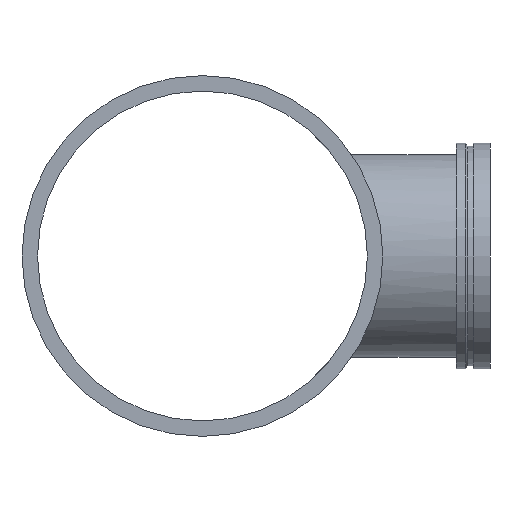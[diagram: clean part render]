
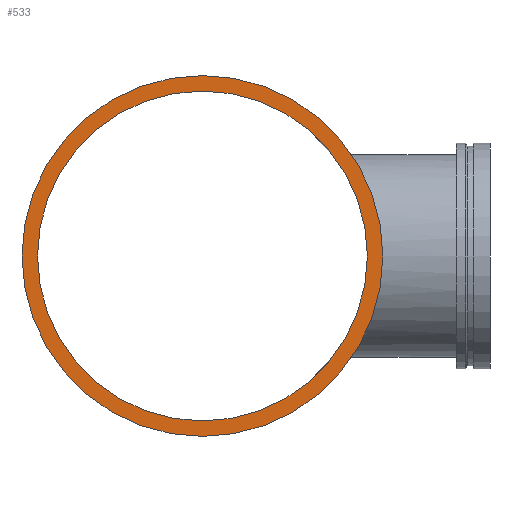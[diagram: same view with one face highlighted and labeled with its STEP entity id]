
A CAD part, left-side view. The second image highlights one B-rep face of the part: STEP entity #533.
In plain terms, the highlighted planar face has unit normal (-1, 0, 0).
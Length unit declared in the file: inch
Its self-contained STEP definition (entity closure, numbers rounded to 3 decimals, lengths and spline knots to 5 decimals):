
#58=FACE_BOUND('',#128,.T.);
#67=PLANE('',#626);
#92=FACE_OUTER_BOUND('',#127,.T.);
#127=EDGE_LOOP('',(#465,#466));
#128=EDGE_LOOP('',(#467,#468));
#151=CIRCLE('',#587,16.);
#152=CIRCLE('',#588,16.);
#175=CIRCLE('',#624,14.625);
#176=CIRCLE('',#625,14.625);
#239=VERTEX_POINT('',#1105);
#240=VERTEX_POINT('',#1107);
#263=VERTEX_POINT('',#1174);
#264=VERTEX_POINT('',#1176);
#299=EDGE_CURVE('',#239,#240,#151,.T.);
#300=EDGE_CURVE('',#240,#239,#152,.T.);
#331=EDGE_CURVE('',#264,#263,#175,.T.);
#332=EDGE_CURVE('',#263,#264,#176,.T.);
#465=ORIENTED_EDGE('',*,*,#300,.F.);
#466=ORIENTED_EDGE('',*,*,#299,.F.);
#467=ORIENTED_EDGE('',*,*,#331,.T.);
#468=ORIENTED_EDGE('',*,*,#332,.T.);
#533=ADVANCED_FACE('',(#92,#58),#67,.T.);
#587=AXIS2_PLACEMENT_3D('',#1108,#716,#717);
#588=AXIS2_PLACEMENT_3D('',#1109,#718,#719);
#624=AXIS2_PLACEMENT_3D('',#1177,#798,#799);
#625=AXIS2_PLACEMENT_3D('',#1178,#800,#801);
#626=AXIS2_PLACEMENT_3D('',#1179,#802,#803);
#716=DIRECTION('center_axis',(1.,0.,0.));
#717=DIRECTION('ref_axis',(0.,0.,1.));
#718=DIRECTION('center_axis',(1.,0.,0.));
#719=DIRECTION('ref_axis',(0.,0.,1.));
#798=DIRECTION('center_axis',(1.,0.,0.));
#799=DIRECTION('ref_axis',(0.,0.,1.));
#800=DIRECTION('center_axis',(1.,0.,0.));
#801=DIRECTION('ref_axis',(0.,0.,1.));
#802=DIRECTION('center_axis',(-1.,0.,0.));
#803=DIRECTION('ref_axis',(0.,0.,-1.));
#1105=CARTESIAN_POINT('',(-28.,16.,0.));
#1107=CARTESIAN_POINT('',(-28.,-16.,0.));
#1108=CARTESIAN_POINT('Origin',(-28.,0.,0.));
#1109=CARTESIAN_POINT('Origin',(-28.,0.,0.));
#1174=CARTESIAN_POINT('',(-28.,14.625,0.));
#1176=CARTESIAN_POINT('',(-28.,-14.625,0.));
#1177=CARTESIAN_POINT('Origin',(-28.,0.,0.));
#1178=CARTESIAN_POINT('Origin',(-28.,0.,0.));
#1179=CARTESIAN_POINT('Origin',(-28.,-16.,0.));
